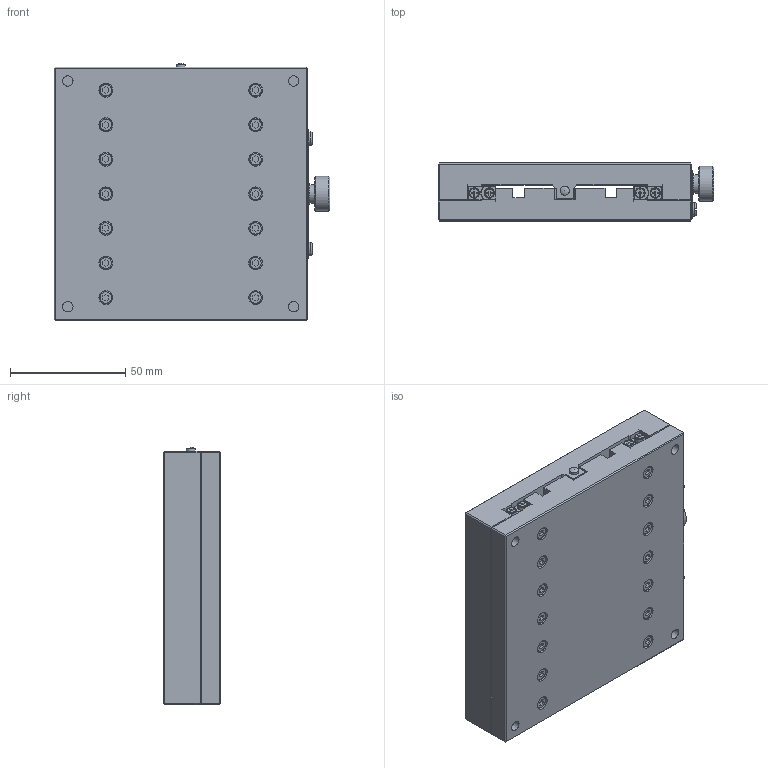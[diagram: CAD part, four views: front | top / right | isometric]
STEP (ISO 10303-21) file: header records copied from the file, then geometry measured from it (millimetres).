
FILE_DESCRIPTION(/* description */ ('STEP AP214'),/* implementation_level */ '2;1');
FILE_NAME(/* name */ 'NH2-110_110-AL-MF',/* time_stamp */ '2025-04-24T11:45:33+02:00',/* author */ ('License CC BY-ND 4.0'),/* organization */ ('CADENAS'),/* preprocessor_version */ 'ST-DEVELOPER v19.3',/* originating_system */ 'PARTsolutions',/* authorisation */ ' ');
FILE_SCHEMA (('AUTOMOTIVE_DESIGN {1 0 10303 214 3 1 1}'));
Length unit declared in the file: millimetre
Products named in the file (5): NH2-110/110-AL-MF; NH2-110/110-AL-MF_d; NH2-110/110-AL-OF_b; NH2-110/110-AL-OF_b2; NH2-110/110-AL-OF_c
Assembly tree (4 placements, depth 2):
  NH2-110/110-AL-MF
    NH2-110/110-AL-MF_d
    NH2-110/110-AL-OF_b
    NH2-110/110-AL-OF_b2
    NH2-110/110-AL-OF_c
Bounding box: 119.8 x 25 x 111.63 mm (x, y, z)
Volume: 280552.1 mm3; surface area: 73862.7 mm2
Topology: 3 solids, 3 shells, 843 faces, 2034 edges, 1323 vertices
Faces by surface type: plane 598, cylinder 174, torus 40, cone 30, sphere 1
Full cylindrical faces by diameter (mm): 3 x2, 3.2 x7, 3.24 x1, 3.242 x12, 4 x9, 4.5 x4, 5.5 x28, 6 x28, 7.5 x4, 8 x1, 9 x1, 15.3 x1
Entity records: 23581 total; most frequent: CARTESIAN_POINT 4050, DIRECTION 3979, ORIENTED_EDGE 3700, EDGE_CURVE 1850, LINE 1385, VECTOR 1385, VERTEX_POINT 1303, AXIS2_PLACEMENT_3D 1297
